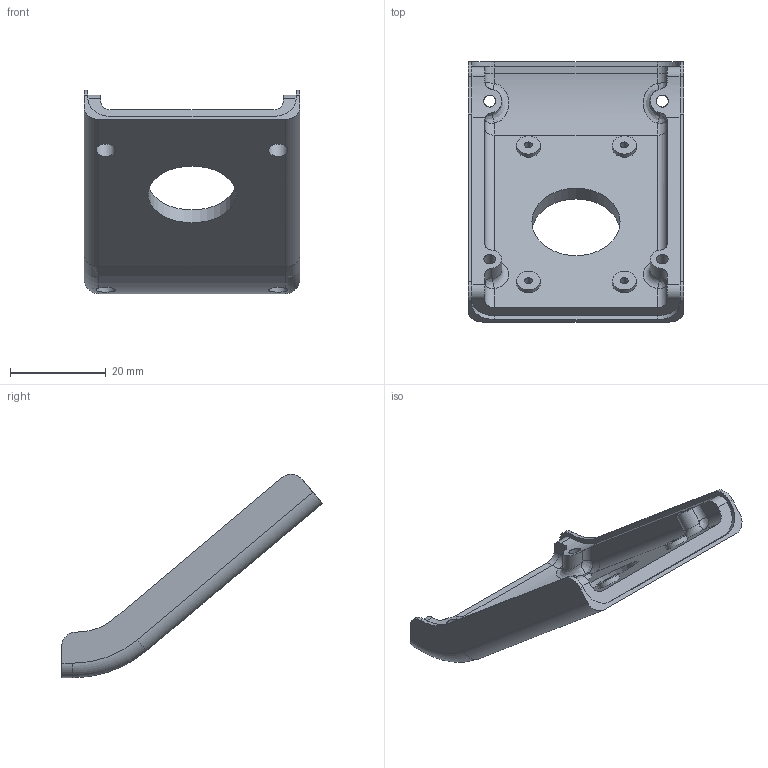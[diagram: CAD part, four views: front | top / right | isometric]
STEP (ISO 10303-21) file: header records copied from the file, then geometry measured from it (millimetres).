
FILE_DESCRIPTION(/* description */ (''),/* implementation_level */ '2;1');
FILE_NAME(/* name */ 'Cannula Holder bottom.step',/* time_stamp */ '2026-10-23T15:38:21+05:30',/* author */ (''),/* organization */ (''),/* preprocessor_version */ 'ST-DEVELOPER v20.2',/* originating_system */ 'Autodesk Translation Framework v15.15.0.0',/* authorisation */ '');
FILE_SCHEMA (('AUTOMOTIVE_DESIGN { 1 0 10303 214 3 1 1 }'));
Length unit declared in the file: millimetre
Products named in the file (1): 2026-10-23-15-38-21-505
Bounding box: 45 x 54.32 x 42.41 mm (x, y, z)
Volume: 11274.2 mm3; surface area: 8104.4 mm2
Topology: 1 solids, 1 shells, 111 faces, 281 edges, 180 vertices
Faces by surface type: cylinder 55, plane 36, bspline 12, torus 8
Full cylindrical faces by diameter (mm): 1.623 x4, 2.5 x4, 4 x4, 5 x4, 18.4 x1
Entity records: 4140 total; most frequent: CARTESIAN_POINT 1419, ORIENTED_EDGE 562, DIRECTION 555, EDGE_CURVE 281, AXIS2_PLACEMENT_3D 217, VERTEX_POINT 180, EDGE_LOOP 129, LINE 121
